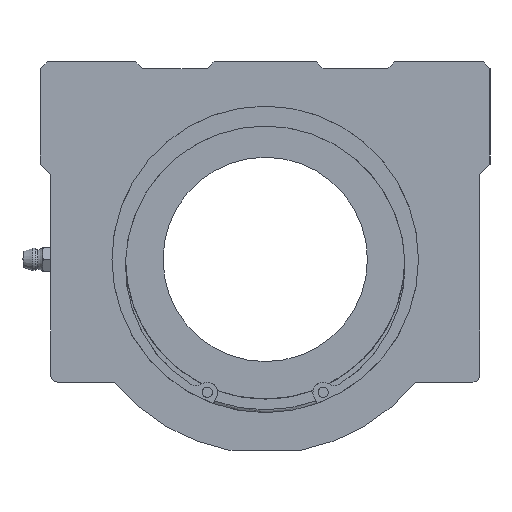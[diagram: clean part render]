
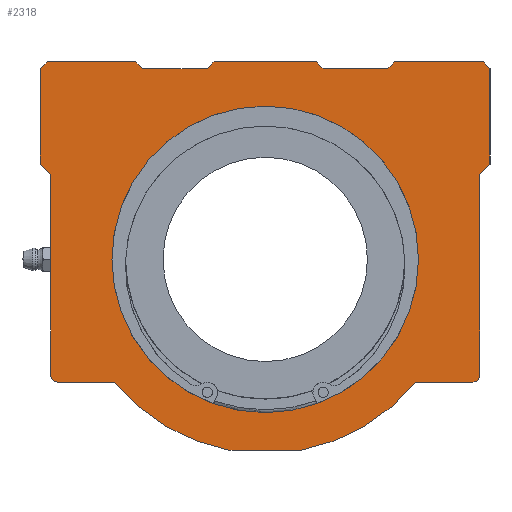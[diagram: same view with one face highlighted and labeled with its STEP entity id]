
A CAD part, left-side view. The second image highlights one B-rep face of the part: STEP entity #2318.
In plain terms, the highlighted planar face has unit normal (-1, 0, 0).
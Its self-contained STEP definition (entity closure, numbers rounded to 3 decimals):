
#1420=CARTESIAN_POINT('',(0.0,45.0,0.));
#1421=VERTEX_POINT('',#1420);
#1422=CARTESIAN_POINT('',(0.0,0.0,0.0));
#1423=DIRECTION('',(1.0,0.0,0.0));
#1424=DIRECTION('',(0.0,-1.0,0.0));
#1425=AXIS2_PLACEMENT_3D('',#1422,#1423,#1424);
#1426=CIRCLE('',#1425,45.0);
#1427=EDGE_CURVE('',#1421,#1421,#1426,.T.);
#1644=CARTESIAN_POINT('',(0.0,66.0,56.));
#1645=VERTEX_POINT('',#1644);
#1660=CARTESIAN_POINT('',(0.0,66.0,28.));
#1661=VERTEX_POINT('',#1660);
#1668=CARTESIAN_POINT('',(0.0,66.0,28.));
#1669=DIRECTION('',(0.0,0.0,1.0));
#1670=VECTOR('',#1669,28.);
#1671=LINE('',#1668,#1670);
#1672=EDGE_CURVE('',#1661,#1645,#1671,.T.);
#1682=CARTESIAN_POINT('',(0.0,63.,-34.));
#1683=VERTEX_POINT('',#1682);
#1692=CARTESIAN_POINT('',(0.0,63.,25.));
#1693=VERTEX_POINT('',#1692);
#1694=CARTESIAN_POINT('',(0.0,63.,-34.));
#1695=DIRECTION('',(0.0,0.0,1.0));
#1696=VECTOR('',#1695,59.);
#1697=LINE('',#1694,#1696);
#1698=EDGE_CURVE('',#1683,#1693,#1697,.T.);
#1783=CARTESIAN_POINT('',(0.0,10.63,-56.0));
#1784=VERTEX_POINT('',#1783);
#1791=CARTESIAN_POINT('',(0.0,44.193,-36.));
#1792=VERTEX_POINT('',#1791);
#1793=CARTESIAN_POINT('',(0.0,0.0,0.0));
#1794=DIRECTION('',(1.,0.0,0.0));
#1795=DIRECTION('',(0.0,0.186,-0.982));
#1796=AXIS2_PLACEMENT_3D('',#1793,#1794,#1795);
#1797=CIRCLE('',#1796,57.);
#1798=EDGE_CURVE('',#1784,#1792,#1797,.T.);
#1822=CARTESIAN_POINT('',(0.0,-10.63,-56.0));
#1823=VERTEX_POINT('',#1822);
#1830=CARTESIAN_POINT('',(0.0,-10.63,-56.0));
#1831=DIRECTION('',(0.0,1.0,0.0));
#1832=VECTOR('',#1831,21.26);
#1833=LINE('',#1830,#1832);
#1834=EDGE_CURVE('',#1823,#1784,#1833,.T.);
#1854=CARTESIAN_POINT('',(0.0,-44.193,-36.));
#1855=VERTEX_POINT('',#1854);
#1862=CARTESIAN_POINT('',(0.0,0.0,0.0));
#1863=DIRECTION('',(1.,0.0,0.0));
#1864=DIRECTION('',(0.0,0.186,-0.982));
#1865=AXIS2_PLACEMENT_3D('',#1862,#1863,#1864);
#1866=CIRCLE('',#1865,57.);
#1867=EDGE_CURVE('',#1855,#1823,#1866,.T.);
#1878=CARTESIAN_POINT('',(0.0,-61.,-36.));
#1879=VERTEX_POINT('',#1878);
#1888=CARTESIAN_POINT('',(0.0,-61.,-36.));
#1889=DIRECTION('',(0.0,1.0,0.0));
#1890=VECTOR('',#1889,16.807);
#1891=LINE('',#1888,#1890);
#1892=EDGE_CURVE('',#1879,#1855,#1891,.T.);
#1915=CARTESIAN_POINT('',(0.0,-66.0,56.));
#1916=VERTEX_POINT('',#1915);
#1925=CARTESIAN_POINT('',(0.0,-66.0,28.));
#1926=VERTEX_POINT('',#1925);
#1927=CARTESIAN_POINT('',(0.0,-66.0,56.));
#1928=DIRECTION('',(0.0,0.0,-1.0));
#1929=VECTOR('',#1928,28.);
#1930=LINE('',#1927,#1929);
#1931=EDGE_CURVE('',#1916,#1926,#1930,.T.);
#1957=CARTESIAN_POINT('',(0.0,-64.,58.));
#1958=VERTEX_POINT('',#1957);
#1973=CARTESIAN_POINT('',(0.0,-38.0,58.0));
#1974=VERTEX_POINT('',#1973);
#1981=CARTESIAN_POINT('',(0.0,-38.0,58.0));
#1982=DIRECTION('',(0.0,-1.0,0.0));
#1983=VECTOR('',#1982,26.);
#1984=LINE('',#1981,#1983);
#1985=EDGE_CURVE('',#1974,#1958,#1984,.T.);
#2008=CARTESIAN_POINT('',(0.0,-64.,58.));
#2009=DIRECTION('',(0.0,-0.707,-0.707));
#2010=VECTOR('',#2009,2.828);
#2011=LINE('',#2008,#2010);
#2012=EDGE_CURVE('',#1958,#1916,#2011,.T.);
#2023=CARTESIAN_POINT('',(0.0,64.0,58.));
#2024=VERTEX_POINT('',#2023);
#2033=CARTESIAN_POINT('',(0.0,38.0,58.0));
#2034=VERTEX_POINT('',#2033);
#2035=CARTESIAN_POINT('',(0.0,64.0,58.));
#2036=DIRECTION('',(0.0,-1.0,0.0));
#2037=VECTOR('',#2036,26.0);
#2038=LINE('',#2035,#2037);
#2039=EDGE_CURVE('',#2024,#2034,#2038,.T.);
#2076=CARTESIAN_POINT('',(0.0,66.0,56.));
#2077=DIRECTION('',(0.0,-0.707,0.707));
#2078=VECTOR('',#2077,2.828);
#2079=LINE('',#2076,#2078);
#2080=EDGE_CURVE('',#1645,#2024,#2079,.T.);
#2091=CARTESIAN_POINT('',(0.0,-36.,56.));
#2092=VERTEX_POINT('',#2091);
#2093=CARTESIAN_POINT('',(0.0,-36.,56.));
#2094=DIRECTION('',(0.0,-0.707,0.707));
#2095=VECTOR('',#2094,2.828);
#2096=LINE('',#2093,#2095);
#2097=EDGE_CURVE('',#2092,#1974,#2096,.T.);
#2122=CARTESIAN_POINT('',(0.0,36.0,56.));
#2123=VERTEX_POINT('',#2122);
#2124=CARTESIAN_POINT('',(0.0,38.0,58.0));
#2125=DIRECTION('',(0.0,-0.707,-0.707));
#2126=VECTOR('',#2125,2.828);
#2127=LINE('',#2124,#2126);
#2128=EDGE_CURVE('',#2034,#2123,#2127,.T.);
#2153=CARTESIAN_POINT('',(0.0,-63.,25.));
#2154=VERTEX_POINT('',#2153);
#2155=CARTESIAN_POINT('',(0.0,-66.0,28.));
#2156=DIRECTION('',(0.0,0.707,-0.707));
#2157=VECTOR('',#2156,4.243);
#2158=LINE('',#2155,#2157);
#2159=EDGE_CURVE('',#1926,#2154,#2158,.T.);
#2184=CARTESIAN_POINT('',(0.0,63.,25.));
#2185=DIRECTION('',(0.0,0.707,0.707));
#2186=VECTOR('',#2185,4.243);
#2187=LINE('',#2184,#2186);
#2188=EDGE_CURVE('',#1693,#1661,#2187,.T.);
#2208=CARTESIAN_POINT('',(0.0,-63.,-34.));
#2209=VERTEX_POINT('',#2208);
#2223=CARTESIAN_POINT('',(0.0,-63.,25.));
#2224=DIRECTION('',(0.0,0.0,-1.0));
#2225=VECTOR('',#2224,59.);
#2226=LINE('',#2223,#2225);
#2227=EDGE_CURVE('',#2154,#2209,#2226,.T.);
#2232=CARTESIAN_POINT('',(0.0,0.,6.61));
#2233=DIRECTION('',(1.0,0.0,0.0));
#2234=DIRECTION('',(0.0,0.0,-1.0));
#2235=AXIS2_PLACEMENT_3D('',#2232,#2233,#2234);
#2236=PLANE('',#2235);
#2237=CARTESIAN_POINT('',(0.0,61.,-36.));
#2238=VERTEX_POINT('',#2237);
#2239=CARTESIAN_POINT('',(0.0,61.,-34.));
#2240=DIRECTION('',(1.0,0.0,0.0));
#2241=DIRECTION('',(0.0,0.707,-0.707));
#2242=AXIS2_PLACEMENT_3D('',#2239,#2240,#2241);
#2243=CIRCLE('',#2242,2.);
#2244=EDGE_CURVE('',#2238,#1683,#2243,.T.);
#2245=ORIENTED_EDGE('',*,*,#2244,.F.);
#2246=CARTESIAN_POINT('',(0.0,44.193,-36.));
#2247=DIRECTION('',(0.0,1.0,0.0));
#2248=VECTOR('',#2247,16.807);
#2249=LINE('',#2246,#2248);
#2250=EDGE_CURVE('',#1792,#2238,#2249,.T.);
#2251=ORIENTED_EDGE('',*,*,#2250,.F.);
#2252=ORIENTED_EDGE('',*,*,#1798,.F.);
#2253=ORIENTED_EDGE('',*,*,#1834,.F.);
#2254=ORIENTED_EDGE('',*,*,#1867,.F.);
#2255=ORIENTED_EDGE('',*,*,#1892,.F.);
#2256=CARTESIAN_POINT('',(0.0,-61.,-34.));
#2257=DIRECTION('',(1.0,0.0,0.0));
#2258=DIRECTION('',(0.0,-0.707,-0.707));
#2259=AXIS2_PLACEMENT_3D('',#2256,#2257,#2258);
#2260=CIRCLE('',#2259,2.);
#2261=EDGE_CURVE('',#2209,#1879,#2260,.T.);
#2262=ORIENTED_EDGE('',*,*,#2261,.F.);
#2263=ORIENTED_EDGE('',*,*,#2227,.F.);
#2264=ORIENTED_EDGE('',*,*,#2159,.F.);
#2265=ORIENTED_EDGE('',*,*,#1931,.F.);
#2266=ORIENTED_EDGE('',*,*,#2012,.F.);
#2267=ORIENTED_EDGE('',*,*,#1985,.F.);
#2268=ORIENTED_EDGE('',*,*,#2097,.F.);
#2269=CARTESIAN_POINT('',(0.0,-17.,56.));
#2270=VERTEX_POINT('',#2269);
#2271=CARTESIAN_POINT('',(0.0,-17.,56.));
#2272=DIRECTION('',(0.0,-1.0,0.0));
#2273=VECTOR('',#2272,19.);
#2274=LINE('',#2271,#2273);
#2275=EDGE_CURVE('',#2270,#2092,#2274,.T.);
#2276=ORIENTED_EDGE('',*,*,#2275,.F.);
#2277=CARTESIAN_POINT('',(0.0,-15.,58.));
#2278=VERTEX_POINT('',#2277);
#2279=CARTESIAN_POINT('',(0.0,-15.,58.));
#2280=DIRECTION('',(0.0,-0.707,-0.707));
#2281=VECTOR('',#2280,2.828);
#2282=LINE('',#2279,#2281);
#2283=EDGE_CURVE('',#2278,#2270,#2282,.T.);
#2284=ORIENTED_EDGE('',*,*,#2283,.F.);
#2285=CARTESIAN_POINT('',(0.0,15.,58.));
#2286=VERTEX_POINT('',#2285);
#2287=CARTESIAN_POINT('',(0.0,15.,58.));
#2288=DIRECTION('',(0.0,-1.0,0.0));
#2289=VECTOR('',#2288,30.);
#2290=LINE('',#2287,#2289);
#2291=EDGE_CURVE('',#2286,#2278,#2290,.T.);
#2292=ORIENTED_EDGE('',*,*,#2291,.F.);
#2293=CARTESIAN_POINT('',(0.0,17.,56.));
#2294=VERTEX_POINT('',#2293);
#2295=CARTESIAN_POINT('',(0.0,17.,56.));
#2296=DIRECTION('',(0.0,-0.707,0.707));
#2297=VECTOR('',#2296,2.828);
#2298=LINE('',#2295,#2297);
#2299=EDGE_CURVE('',#2294,#2286,#2298,.T.);
#2300=ORIENTED_EDGE('',*,*,#2299,.F.);
#2301=CARTESIAN_POINT('',(0.0,36.0,56.));
#2302=DIRECTION('',(0.0,-1.0,0.0));
#2303=VECTOR('',#2302,19.);
#2304=LINE('',#2301,#2303);
#2305=EDGE_CURVE('',#2123,#2294,#2304,.T.);
#2306=ORIENTED_EDGE('',*,*,#2305,.F.);
#2307=ORIENTED_EDGE('',*,*,#2128,.F.);
#2308=ORIENTED_EDGE('',*,*,#2039,.F.);
#2309=ORIENTED_EDGE('',*,*,#2080,.F.);
#2310=ORIENTED_EDGE('',*,*,#1672,.F.);
#2311=ORIENTED_EDGE('',*,*,#2188,.F.);
#2312=ORIENTED_EDGE('',*,*,#1698,.F.);
#2313=EDGE_LOOP('',(#2245,#2251,#2252,#2253,#2254,#2255,#2262,#2263,#2264,#2265,#2266,#2267,#2268,#2276,#2284,#2292,#2300,#2306,#2307,#2308,#2309,#2310,#2311,#2312));
#2314=FACE_OUTER_BOUND('',#2313,.T.);
#2315=ORIENTED_EDGE('',*,*,#1427,.T.);
#2316=EDGE_LOOP('',(#2315));
#2317=FACE_BOUND('',#2316,.T.);
#2318=ADVANCED_FACE('',(#2314,#2317),#2236,.F.);
